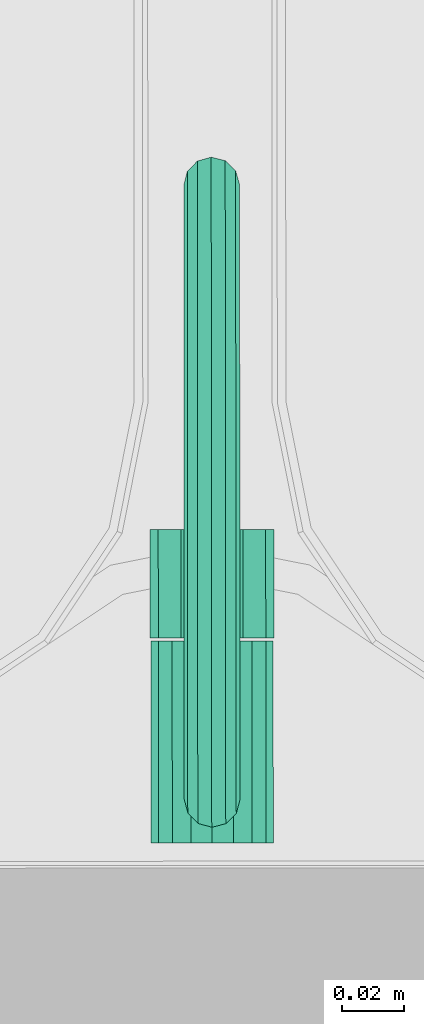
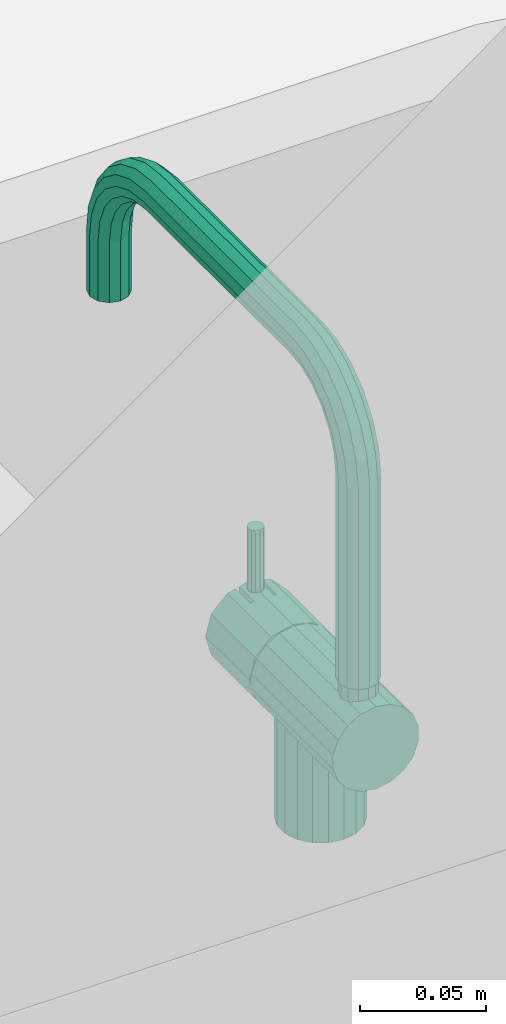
# One storey, part 122 of 194: 1 flow terminal.
"""IFC2X3 building model written with IfcOpenShell, lengths in millimetres."""

import ifcopenshell
import ifcopenshell.guid

model = None  # the IFC model being written
_history = None  # IfcOwnerHistory: only IFC2X3 demands one
_inside = {}  # id of a spatial element -> (the spatial element, [elements in it])
_under = {}  # id of a project, library or spatial element -> (it, [spatial elements below it])
_declared = {}  # id of a project -> (the project, [libraries it declares])
_typed = {}  # id of a type object -> (the type object, [elements of that type])
_made_of = {}  # id of a material, layer set ... -> (it, [elements and type objects made of it])


def new_model(schema):
    """Start an empty IFC model of exactly this schema.

    Asked for "IFC4X3", IfcOpenShell would pick the latest addendum, in which some entities
    have other attributes; the version numbers below select the first issue.
    IFC2X3 requires an IfcOwnerHistory on every rooted entity: one is made here for all.
    """
    global model, _history
    if schema == "IFC4X3":
        model = ifcopenshell.file(schema_version=(4, 3, 0, 0))
    else:
        model = ifcopenshell.file(schema=schema)
    _inside.clear()
    _under.clear()
    _declared.clear()
    _typed.clear()
    _made_of.clear()
    _history = None
    if model.schema == "IFC2X3":
        org = make("IfcOrganization", Name="unknown")
        user = make(
            "IfcPersonAndOrganization",
            ThePerson=make("IfcPerson", FamilyName="unknown"),
            TheOrganization=org,
        )
        app = make(
            "IfcApplication",
            ApplicationDeveloper=org,
            Version="unknown",
            ApplicationFullName="unknown",
            ApplicationIdentifier="unknown",
        )
        _history = make(
            "IfcOwnerHistory",
            OwningUser=user,
            OwningApplication=app,
            ChangeAction="ADDED",
            CreationDate=0,
        )
    return model


def make(cls, **values):
    """One entity of the class cls with the attributes given. An attribute that is None is left unset."""
    return model.create_entity(
        cls, **{name: value for name, value in values.items() if value is not None}
    )


def entity(cls, *values):
    """Any entity or typed value of the class cls, its attributes in the order of the schema. None: left unset."""
    e = model.create_entity(cls)
    for i, value in enumerate(values):
        if value is not None:
            e[i] = value
    return e


def rooted(cls, **values):
    """An entity with a GlobalId (a new one), such as an element, a storey or a relation."""
    return make(cls, GlobalId=ifcopenshell.guid.new(), OwnerHistory=_history, **values)


def si_unit(unit_type, name, prefix=None):
    """IfcSIUnit, for example si_unit("LENGTHUNIT", "METRE", prefix="MILLI")."""
    return make("IfcSIUnit", UnitType=unit_type, Prefix=prefix, Name=name)


def converted_unit(unit_type, name, factor, base, dimensions=None, offset=None):
    """IfcConversionBasedUnit, such as the inch: factor (a typed value) times the base unit."""
    return make(
        "IfcConversionBasedUnit"
        if offset is None
        else "IfcConversionBasedUnitWithOffset",
        ConversionOffset=offset,
        Dimensions=None
        if dimensions is None
        else entity("IfcDimensionalExponents", *dimensions),
        UnitType=unit_type,
        Name=name,
        ConversionFactor=make(
            "IfcMeasureWithUnit", ValueComponent=factor, UnitComponent=base
        ),
    )


def derived_unit(unit_type, elements):
    """IfcDerivedUnit: a product of units, each with its exponent."""
    return make(
        "IfcDerivedUnit",
        Elements=[
            make("IfcDerivedUnitElement", Unit=unit, Exponent=power)
            for unit, power in elements
        ],
        UnitType=unit_type,
    )


def money_unit(currency):
    """IfcMonetaryUnit."""
    return make("IfcMonetaryUnit", Currency=currency)


def assignment(units):
    """IfcUnitAssignment: the units of a project."""
    return None if units is None else make("IfcUnitAssignment", Units=units)


def point(xyz):
    """IfcCartesianPoint."""
    return None if xyz is None else make("IfcCartesianPoint", Coordinates=xyz)


def direction(xyz):
    """IfcDirection."""
    return None if xyz is None else make("IfcDirection", DirectionRatios=xyz)


def frame(location, z_axis=None, x_axis=None):
    """IfcAxis2Placement3D, a coordinate frame: its origin and axes. An axis left out is left unset."""
    return make(
        "IfcAxis2Placement3D",
        Location=point(location),
        Axis=direction(z_axis),
        RefDirection=direction(x_axis),
    )


def origin_with_axes():
    """The frame at (0, 0, 0) with the z axis (0, 0, 1) and the x axis (1, 0, 0) written out."""
    return frame((0.0, 0.0, 0.0), z_axis=(0.0, 0.0, 1.0), x_axis=(1.0, 0.0, 0.0))


def place(relative_to, where):
    """IfcLocalPlacement: puts the frame where relative to a parent placement (None: the world)."""
    return make(
        "IfcLocalPlacement", PlacementRelTo=relative_to, RelativePlacement=where
    )


def context(
    kind, dimensions, precision=None, world=None, true_north=None, identifier=None
):
    """IfcGeometricRepresentationContext, for example the 3D "Model" context."""
    return make(
        "IfcGeometricRepresentationContext",
        ContextIdentifier=identifier,
        ContextType=kind,
        CoordinateSpaceDimension=dimensions,
        Precision=precision,
        WorldCoordinateSystem=world,
        TrueNorth=true_north,
    )


def subcontext(parent, identifier, kind, view, scale=None):
    """IfcGeometricRepresentationSubContext, for example "Body" below "Model"."""
    return make(
        "IfcGeometricRepresentationSubContext",
        ContextIdentifier=identifier,
        ContextType=kind,
        ParentContext=parent,
        TargetScale=scale,
        TargetView=view,
    )


def project(units=None, contexts=None):
    """IfcProject with its units and contexts."""
    return rooted(
        "IfcProject",
        Name="project",
        RepresentationContexts=contexts,
        UnitsInContext=assignment(units),
    )


def spatial(cls, under=None, at=None, **own):
    """A site, building, storey or space (cls), placed at a placement, below another one or the project."""
    s = rooted(cls, ObjectPlacement=at, **own)
    if under is not None:
        _under.setdefault(under.id(), (under, []))[1].append(s)
    return s


def faces_of(points, faces, orient=None, outer=None):
    """IfcFace entities. A face is a list of loops; a loop is a list of indices into points, from 0.

    orient and outer hold one flag for each loop. By default every Orientation is true, the
    first loop of a face is its IfcFaceOuterBound and the others are IfcFaceBound.
    """
    made = []
    for i, loops in enumerate(faces):
        bounds = []
        for j, loop in enumerate(loops):
            is_outer = j == 0 if outer is None else outer[i][j]
            bounds.append(
                make(
                    "IfcFaceOuterBound" if is_outer else "IfcFaceBound",
                    Bound=make("IfcPolyLoop", Polygon=[points[k] for k in loop]),
                    Orientation=True if orient is None else orient[i][j],
                )
            )
        made.append(make("IfcFace", Bounds=bounds))
    return made


def open_shell(faces, orient=None, outer=None):
    """The faces of one IfcOpenShell. surface_model builds it on its shared points."""
    return ("IfcOpenShell", faces, orient, outer)


def faceted_brep(points, faces, orient=None, outer=None, voids=None):
    """IfcFacetedBrep: a solid bounded by flat faces; with voids (closed shells), ...WithVoids."""
    shared = [point(p) for p in points]
    hull = make("IfcClosedShell", CfsFaces=faces_of(shared, faces, orient, outer))
    if voids is None:
        return make("IfcFacetedBrep", Outer=hull)
    return make(
        "IfcFacetedBrepWithVoids",
        Outer=hull,
        Voids=[
            make(cls, CfsFaces=faces_of(shared, fs, o, b)) for cls, fs, o, b in voids
        ],
    )


def surface_model(cls, points, shells):
    """IfcFaceBasedSurfaceModel or IfcShellBasedSurfaceModel (cls): surfaces that need not close."""
    shared = [point(p) for p in points]
    made = [make(c, CfsFaces=faces_of(shared, fs, o, b)) for c, fs, o, b in shells]
    if cls == "IfcFaceBasedSurfaceModel":
        return make(cls, FbsmFaces=made)
    return make(cls, SbsmBoundary=made)


def shape(context_of_items, identifier, shape_type, items):
    """IfcShapeRepresentation: the items that make up one representation, for example the "Body"."""
    return make(
        "IfcShapeRepresentation",
        ContextOfItems=context_of_items,
        RepresentationIdentifier=identifier,
        RepresentationType=shape_type,
        Items=items,
    )


def source(mapping_origin, context_of_items, identifier, shape_type, items):
    """IfcRepresentationMap: a shape defined once, which mapped items show again and again."""
    return make(
        "IfcRepresentationMap",
        MappingOrigin=mapping_origin,
        MappedRepresentation=shape(context_of_items, identifier, shape_type, items),
    )


def transform(
    local_origin,
    x_axis=None,
    y_axis=None,
    z_axis=None,
    scale=None,
    scale2=None,
    scale3=None,
    uniform=True,
):
    """IfcCartesianTransformationOperator3D, or its non-uniform kind. x_axis, y_axis, z_axis: its Axis1, 2, 3."""
    if uniform:
        return make(
            "IfcCartesianTransformationOperator3D",
            Axis1=direction(x_axis),
            Axis2=direction(y_axis),
            LocalOrigin=point(local_origin),
            Scale=scale,
            Axis3=direction(z_axis),
        )
    return make(
        "IfcCartesianTransformationOperator3DnonUniform",
        Axis1=direction(x_axis),
        Axis2=direction(y_axis),
        LocalOrigin=point(local_origin),
        Scale=scale,
        Axis3=direction(z_axis),
        Scale2=scale2,
        Scale3=scale3,
    )


def mapped(mapping_source, mapping_target):
    """IfcMappedItem: shows the shape of a source again, moved by a transform."""
    return make(
        "IfcMappedItem", MappingSource=mapping_source, MappingTarget=mapping_target
    )


def made_of(thing, what):
    """Note that an element or type object is made of a material, layer set ...; save() writes the relation."""
    if what is not None:
        _made_of.setdefault(what.id(), (what, []))[1].append(thing)
    return thing


def type_object(cls, material=None, **own):
    """A type object (cls), such as IfcWallType, which elements share."""
    return made_of(rooted(cls, **own), material)


def element(
    cls,
    number,
    at=None,
    inside=None,
    cuts=None,
    type_object=None,
    material=None,
    context=None,
    identifier="Body",
    shape_type=None,
    held_by="IfcProductDefinitionShape",
    body=None,
    shapes=None,
    **own,
):
    """One element of the class cls, such as IfcWall. Its Tag is "e" and its number.

    at: its placement. inside: the storey or other place that contains it. cuts: it is an
    opening in that element (IfcRelVoidsElement). A single representation is given by context,
    identifier, shape_type and body (its items); several are given by shapes. held_by: the class
    of the entity that holds the representations. save() writes the other relations.
    """
    e = rooted(cls, Tag="e%d" % number, ObjectPlacement=at, **own)
    if body is not None:
        shapes = [shape(context, identifier, shape_type, body)]
    if shapes is not None:
        e.Representation = make(held_by, Representations=shapes)
    if inside is not None:
        _inside.setdefault(inside.id(), (inside, []))[1].append(e)
    if cuts is not None:
        rooted(
            "IfcRelVoidsElement", RelatingBuildingElement=cuts, RelatedOpeningElement=e
        )
    if type_object is not None:
        _typed.setdefault(type_object.id(), (type_object, []))[1].append(e)
    return made_of(e, material)


def aggregate(whole, parts):
    """IfcRelAggregates: a whole, such as a stair, and the parts it consists of."""
    return rooted("IfcRelAggregates", RelatingObject=whole, RelatedObjects=parts)


def save(model, path):
    """Write the relations noted so far, then the file.

    IfcRelAggregates (storeys below a building ...), IfcRelContainedInSpatialStructure (elements
    in a storey), IfcRelDefinesByType, IfcRelAssociatesMaterial and IfcRelDeclares: one each for
    every whole, place, type object, material and project.
    """
    for whole, parts in _under.values():
        aggregate(whole, parts)
    for where, things in _inside.values():
        rooted(
            "IfcRelContainedInSpatialStructure",
            RelatedElements=things,
            RelatingStructure=where,
        )
    for kind, things in _typed.values():
        rooted("IfcRelDefinesByType", RelatedObjects=things, RelatingType=kind)
    for what, things in _made_of.values():
        rooted("IfcRelAssociatesMaterial", RelatedObjects=things, RelatingMaterial=what)
    for by, libraries in _declared.values():
        rooted("IfcRelDeclares", RelatingContext=by, RelatedDefinitions=libraries)
    model.write(path)


model = new_model("IFC2X3")

# Units and contexts
model_context = context("Model", 3, precision=1e-05, world=origin_with_axes(), true_north=direction((0.0, 1.0)))
body_context = subcontext(model_context, "Body", "Model", "MODEL_VIEW")
ifc_project = project(units=[si_unit("LENGTHUNIT", "METRE", prefix="MILLI"), si_unit("AREAUNIT", "SQUARE_METRE"), si_unit("VOLUMEUNIT", "CUBIC_METRE"), converted_unit("PLANEANGLEUNIT", "DEGREE", entity("IfcPlaneAngleMeasure", 0.0174532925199), si_unit("PLANEANGLEUNIT", "RADIAN"), dimensions=[0, 0, 0, 0, 0, 0, 0]), si_unit("SOLIDANGLEUNIT", "STERADIAN"), money_unit("EUR"), converted_unit("TIMEUNIT", "Year", entity("IfcTimeMeasure", 31556926.0), si_unit("TIMEUNIT", "SECOND"), dimensions=[0, 0, 1, 0, 0, 0, 0]), si_unit("MASSUNIT", "GRAM", prefix="KILO"), si_unit("THERMODYNAMICTEMPERATUREUNIT", "DEGREE_CELSIUS"), si_unit("LUMINOUSINTENSITYUNIT", "LUMEN"), si_unit("ENERGYUNIT", "JOULE", prefix="MEGA"), derived_unit("THERMALCONDUCTANCEUNIT", [(si_unit("POWERUNIT", "WATT"), 1), (si_unit("LENGTHUNIT", "METRE"), -1), (si_unit("THERMODYNAMICTEMPERATUREUNIT", "KELVIN"), -1)]), derived_unit("SPECIFICHEATCAPACITYUNIT", [(si_unit("ENERGYUNIT", "JOULE"), 1), (si_unit("MASSUNIT", "GRAM", prefix="KILO"), -1), (si_unit("THERMODYNAMICTEMPERATUREUNIT", "KELVIN"), -1)]), derived_unit("MASSDENSITYUNIT", [(si_unit("MASSUNIT", "GRAM", prefix="KILO"), 1), (si_unit("VOLUMEUNIT", "CUBIC_METRE"), -1)])], contexts=[model_context])

# Site, building, storey
site_placement = place(None, origin_with_axes())
site = spatial("IfcSite", under=ifc_project, at=site_placement, Name="Site", CompositionType="ELEMENT")
building_placement = place(site_placement, origin_with_axes())
building = spatial("IfcBuilding", under=site, at=building_placement, Name="Building", CompositionType="ELEMENT")
storey_placement = place(building_placement, frame((0.0, 0.0, 3000.0), z_axis=(0.0, 0.0, 1.0), x_axis=(1.0, 0.0, 0.0)))
storey = spatial("IfcBuildingStorey", under=building, at=storey_placement, Name="2 KORRUS", CompositionType="ELEMENT", Elevation=3000.0)

# Flow terminal
sanitary_terminal_type = type_object("IfcSanitaryTerminalType", Name="Tap 22", PredefinedType="NOTDEFINED")
shared_shape = source(origin_with_axes(), body_context, "Body", "SurfaceModel", [
    surface_model("IfcShellBasedSurfaceModel", [(-6.32737265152, 17.3843134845, 1041.02727338), (0.0, 18.5, 1040.0), (0.0, 18.5, 1000.0), (-6.32737265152, 17.3843134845, 1000.0), (6.32737265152, 17.3843134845, 1041.02727338), (6.32737265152, 17.3843134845, 1000.0), (11.8915707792, 14.1718221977, 1000.0), (16.02146997, 9.25, 1000.0), (18.2189434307, 3.21249128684, 1000.0), (18.2189434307, -3.21249128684, 1000.0), (16.02146997, -9.25, 1000.0), (11.8915707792, -14.1718221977, 1000.0), (6.32737265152, -17.3843134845, 1000.0), (0.0, -18.5, 1000.0), (-6.32737265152, -17.3843134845, 1000.0), (-11.8915707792, -14.1718221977, 1000.0), (-16.02146997, -9.25, 1000.0), (-18.2189434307, -3.21249128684, 1000.0), (-18.2189434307, 3.21249128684, 1000.0), (-16.02146997, 9.25, 1000.0), (-11.8915707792, 14.1718221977, 1000.0), (-11.8915707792, 14.1718221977, 1043.91924926), (11.8915707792, 14.1718221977, 1043.91924926), (16.02146997, 9.25, 1048.02868011), (18.2189434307, 3.21249128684, 1051.74953939), (18.2189434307, -3.21249128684, 1051.74953939), (16.02146997, -9.25, 1048.02868011), (11.8915707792, -14.1718221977, 1043.91924926), (6.32737265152, -17.3843134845, 1041.02727338), (0.0, -18.5, 1040.0), (-6.32737265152, -17.3843134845, 1041.02727338), (-11.8915707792, -14.1718221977, 1043.91924926), (-16.02146997, -9.25, 1048.02868011), (-18.2189434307, -3.21249128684, 1051.74953939), (-18.2189434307, 3.21249128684, 1051.74953939), (-16.02146997, 9.25, 1048.02868011)], [open_shell([[[0, 1, 2, 3]], [[1, 4, 5, 2]], [[3, 2, 5, 6, 7, 8, 9, 10, 11, 12, 13, 14, 15, 16, 17, 18, 19, 20]], [[21, 0, 3, 20]], [[4, 22, 6, 5]], [[22, 23, 7, 6]], [[23, 24, 8, 7]], [[24, 25, 9, 8]], [[25, 26, 10, 9]], [[26, 27, 11, 10]], [[27, 28, 12, 11]], [[28, 29, 13, 12]], [[29, 30, 14, 13]], [[30, 31, 15, 14]], [[31, 32, 16, 15]], [[32, 33, 17, 16]], [[33, 34, 18, 17]], [[34, 35, 19, 18]], [[35, 21, 20, 19]]])]),
    faceted_brep([(-6.84040286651, 44.0, 1041.20614758), (-12.8557521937, 44.0, 1044.67911114), (-17.3205080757, 44.0, 1050.0), (-19.6961550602, 44.0, 1056.52703645), (-19.6961550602, 44.0, 1063.47296355), (-17.3205080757, 44.0, 1070.0), (-12.8557521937, 44.0, 1075.32088886), (-6.84040286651, 44.0, 1078.79385242), (0.0, 44.0, 1080.0), (6.84040286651, 44.0, 1078.79385242), (12.8557521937, 44.0, 1075.32088886), (17.3205080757, 44.0, 1070.0), (19.6961550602, 44.0, 1063.47296355), (19.6961550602, 44.0, 1056.52703645), (17.3205080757, 44.0, 1050.0), (12.8557521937, 44.0, 1044.67911114), (6.84040286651, 44.0, 1041.20614758), (0.0, 44.0, 1040.0), (-6.84040286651, -21.0, 1041.20614758), (-12.8557521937, -21.0, 1044.67911114), (-17.3205080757, -21.0, 1050.0), (-19.6961550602, -21.0, 1056.52703645), (-19.6961550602, -21.0, 1063.47296355), (-17.3205080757, -21.0, 1070.0), (-12.8557521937, -21.0, 1075.32088886), (-6.84040286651, -21.0, 1078.79385242), (0.0, -21.0, 1080.0), (6.84040286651, -21.0, 1078.79385242), (12.8557521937, -21.0, 1075.32088886), (17.3205080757, -21.0, 1070.0), (19.6961550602, -21.0, 1063.47296355), (19.6961550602, -21.0, 1056.52703645), (17.3205080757, -21.0, 1050.0), (12.8557521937, -21.0, 1044.67911114), (6.84040286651, -21.0, 1041.20614758), (0.0, -21.0, 1040.0)], [[[0, 1, 2, 3, 4, 5, 6, 7, 8, 9, 10, 11, 12, 13, 14, 15, 16, 17]], [[1, 0, 18, 19]], [[2, 1, 19, 20]], [[3, 2, 20, 21]], [[4, 3, 21, 22]], [[5, 4, 22, 23]], [[6, 5, 23, 24]], [[7, 6, 24, 25]], [[8, 7, 25, 26]], [[9, 8, 26, 27]], [[10, 9, 27, 28]], [[11, 10, 28, 29]], [[12, 11, 29, 30]], [[13, 12, 30, 31]], [[14, 13, 31, 32]], [[15, 14, 32, 33]], [[16, 15, 33, 34]], [[17, 16, 34, 35]], [[0, 17, 35, 18]], [[18, 35, 34, 33, 32, 31, 30, 29, 28, 27, 26, 25, 24, 23, 22, 21, 20, 19]]]),
    faceted_brep([(4.5, -57.0, 1078.79422863), (4.5, -45.0, 1078.79422863), (6.0, -45.0, 1078.39230485), (6.0, -57.0, 1078.39230485), (10.0, -57.0, 1077.32050808), (10.0, -22.0, 1077.32050808), (0.0, -22.0, 1080.0), (0.0, -57.0, 1080.0), (4.5, -57.0, 1041.20577137), (4.5, -45.0, 1041.20577137), (6.0, -45.0, 1041.60769515), (6.0, -57.0, 1041.60769515), (10.0, -57.0, 1042.67949192), (17.3205080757, -57.0, 1050.0), (20.0, -57.0, 1060.0), (17.3205080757, -57.0, 1070.0), (17.3205080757, -22.0, 1070.0), (20.0, -22.0, 1060.0), (17.3205080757, -22.0, 1050.0), (10.0, -22.0, 1042.67949192), (0.0, -22.0, 1040.0), (-10.0, -22.0, 1042.67949192), (-17.3205080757, -22.0, 1050.0), (-20.0, -22.0, 1060.0), (-17.3205080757, -22.0, 1070.0), (-10.0, -22.0, 1077.32050808), (-10.0, -57.0, 1077.32050808), (-6.0, -57.0, 1078.39230485), (-6.0, -45.0, 1078.39230485), (-4.5, -45.0, 1078.79422863), (-4.5, -57.0, 1078.79422863), (-4.5, -57.0, 1041.20577137), (0.0, -57.0, 1040.0), (-4.5, -45.0, 1041.20577137), (-6.0, -45.0, 1041.60769515), (-6.0, -57.0, 1041.60769515), (-10.0, -57.0, 1042.67949192), (-17.3205080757, -57.0, 1050.0), (-20.0, -57.0, 1060.0), (-17.3205080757, -57.0, 1070.0)], [[[0, 1, 2, 3, 4, 5, 6, 7]], [[1, 0, 8, 9]], [[2, 1, 9, 10]], [[3, 2, 10, 11]], [[3, 11, 12, 13, 14, 15, 4]], [[4, 15, 16, 5]], [[5, 16, 17, 18, 19, 20, 21, 22, 23, 24, 25, 6]], [[6, 25, 26, 27, 28, 29, 30, 7]], [[8, 0, 7, 30, 31, 32]], [[9, 8, 32, 20, 19, 12, 11, 10]], [[13, 12, 19, 18]], [[14, 13, 18, 17]], [[15, 14, 17, 16]], [[32, 31, 33, 34, 35, 36, 21, 20]], [[36, 37, 22, 21]], [[37, 38, 23, 22]], [[38, 39, 24, 23]], [[39, 26, 25, 24]], [[38, 37, 36, 35, 27, 26, 39]], [[27, 35, 34, 28]], [[28, 34, 33, 29]], [[29, 33, 31, 30]]]),
    surface_model("IfcShellBasedSurfaceModel", [(1.75, -48.4689110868, 1079.92329039), (0.0, -48.0, 1080.0), (0.0, -48.0, 1110.0), (1.75, -48.4689110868, 1110.0), (-1.75, -48.4689110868, 1079.92329039), (-1.75, -48.4689110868, 1110.0), (-3.03108891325, -49.75, 1110.0), (-3.5, -51.5, 1110.0), (-3.03108891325, -53.25, 1110.0), (-1.75, -54.5310889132, 1110.0), (0.0, -55.0, 1110.0), (1.75, -54.5310889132, 1110.0), (3.03108891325, -53.25, 1110.0), (3.5, -51.5, 1110.0), (3.03108891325, -49.75, 1110.0), (3.03108891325, -49.75, 1079.76897822), (-3.03108891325, -49.75, 1079.76897822), (-3.5, -51.5, 1079.69136867), (-3.03108891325, -53.25, 1079.76897822), (-1.75, -54.5310889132, 1079.92329039), (0.0, -55.0, 1080.0), (1.75, -54.5310889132, 1079.92329039), (3.03108891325, -53.25, 1079.76897822), (3.5, -51.5, 1079.69136867)], [open_shell([[[0, 1, 2, 3]], [[1, 4, 5, 2]], [[3, 2, 5, 6, 7, 8, 9, 10, 11, 12, 13, 14]], [[15, 0, 3, 14]], [[4, 16, 6, 5]], [[16, 17, 7, 6]], [[17, 18, 8, 7]], [[18, 19, 9, 8]], [[19, 20, 10, 9]], [[20, 21, 11, 10]], [[21, 22, 12, 11]], [[22, 23, 13, 12]], [[23, 15, 14, 13]]])]),
    surface_model("IfcShellBasedSurfaceModel", [(4.0, 36.9282032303, 1079.59591794), (0.0, 38.0, 1080.0), (0.0, 38.0, 1090.0), (4.0, 36.9282032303, 1090.0), (-4.0, 36.9282032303, 1079.59591794), (-4.0, 36.9282032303, 1090.0), (-6.92820323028, 34.0, 1090.0), (-8.0, 30.0, 1090.0), (-6.92820323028, 26.0, 1090.0), (-4.0, 23.0717967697, 1090.0), (0.0, 22.0, 1090.0), (4.0, 23.0717967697, 1090.0), (6.92820323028, 26.0, 1090.0), (8.0, 30.0, 1090.0), (6.92820323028, 34.0, 1090.0), (6.92820323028, 34.0, 1078.76166304), (-6.92820323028, 34.0, 1078.76166304), (-8.0, 30.0, 1078.33030278), (-6.92820323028, 26.0, 1078.76166304), (-4.0, 23.0717967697, 1079.59591794), (0.0, 22.0, 1080.0), (4.0, 23.0717967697, 1079.59591794), (6.92820323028, 26.0, 1078.76166304), (8.0, 30.0, 1078.33030278)], [open_shell([[[0, 1, 2, 3]], [[1, 4, 5, 2]], [[3, 2, 5, 6, 7, 8, 9, 10, 11, 12, 13, 14]], [[15, 0, 3, 14]], [[4, 16, 6, 5]], [[16, 17, 7, 6]], [[17, 18, 8, 7]], [[18, 19, 9, 8]], [[19, 20, 10, 9]], [[20, 21, 11, 10]], [[21, 22, 12, 11]], [[22, 23, 13, 12]], [[23, 15, 14, 13]]])]),
    surface_model("IfcShellBasedSurfaceModel", [(-9.0, 30.0, 1086.0), (-7.79422863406, 25.5, 1086.0), (-7.79422863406, 25.5, 1183.70505442), (-9.0, 30.0, 1184.0), (-4.5, 22.2057713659, 1086.0), (-4.5, 22.2057713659, 1183.48913927), (-7.87157736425, 24.317905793, 1193.73135353), (-7.79422863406, 34.5, 1086.0), (-7.79422863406, 34.5, 1184.29494558), (0.0, 21.0, 1086.0), (0.0, 21.0, 1183.41010883), (-4.63534267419, 21.052944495, 1192.85650978), (-8.99862925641, 28.7219134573, 1194.91140383), (-4.5, 37.7942286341, 1086.0), (-4.5, 37.7942286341, 1184.51086073), (4.5, 22.2057713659, 1086.0), (4.5, 22.2057713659, 1183.48913927), (-0.157071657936, 19.8018733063, 1192.52128627), (-4.63534267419, 17.6344593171, 1201.10946306), (-7.87157736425, 20.5617435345, 1202.79953139), (-8.99862925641, 24.5102687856, 1205.07921351), (-7.71450570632, 33.0849171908, 1196.08046715), (0.0, 39.0, 1086.0), (0.0, 39.0, 1184.58989117), (7.79422863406, 25.5, 1086.0), (7.79422863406, 25.5, 1183.70505442), (4.36328658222, 20.8999157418, 1192.81550585), (-0.157071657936, 16.5127795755, 1200.46186096), (-4.63534267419, 12.1964347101, 1208.19643471), (-7.87157736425, 14.586552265, 1210.58655226), (-8.99862925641, 17.8105096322, 1213.81050963), (-7.71450570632, 28.422030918, 1207.33767043), (-4.36328658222, 36.2378536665, 1196.92529393), (4.5, 37.7942286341, 1086.0), (4.5, 37.7942286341, 1184.51086073), (9.0, 30.0, 1086.0), (9.0, 30.0, 1184.0), (7.71450570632, 24.0528522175, 1193.66033264), (4.36328658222, 17.4972574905, 1201.03024955), (-0.157071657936, 11.2805870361, 1207.28058704), (-4.63534267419, 5.10946306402, 1213.63445932), (-7.87157736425, 6.79953139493, 1216.56174353), (-8.99862925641, 9.07921351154, 1220.51026879), (-7.71450570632, 21.0044500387, 1217.00445004), (-4.36328658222, 31.2488764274, 1208.96975045), (0.157071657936, 37.335896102, 1197.21951352), (7.79422863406, 34.5, 1086.0), (7.79422863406, 34.5, 1184.29494558), (8.99862925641, 28.415855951, 1194.82939596), (7.71450570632, 20.3241029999, 1202.66232957), (4.36328658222, 12.0844098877, 1208.08440989), (-0.157071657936, 4.46186096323, 1212.51277958), (-4.63534267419, -3.14349021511, 1217.05294449), (-7.87157736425, -2.26864647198, 1220.31790579), (-8.99862925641, -1.08859617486, 1224.72191346), (-7.71450570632, 11.3376704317, 1224.42203092), (-4.36328658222, 23.312559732, 1219.31255973), (0.157071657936, 32.2333543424, 1209.53813904), (4.63534267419, 36.0848249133, 1196.88429), (7.87157736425, 32.8198636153, 1196.00944626), (8.99862925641, 24.2358651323, 1204.92078649), (7.71450570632, 14.392519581, 1210.39251958), (4.36328658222, 5.03024955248, 1213.49725749), (-0.157071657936, -3.47871372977, 1215.80187331), (-4.63534267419, -12.5056354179, 1218.28549429), (-7.87157736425, -12.2859849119, 1221.63671342), (-8.99862925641, -11.9897049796, 1226.15707166), (-7.71450570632, 0.0804671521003, 1229.08491719), (-4.36328658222, 12.9697504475, 1227.24887643), (0.157071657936, 24.1163825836, 1220.11638258), (4.63534267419, 31.1116746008, 1208.89053694), (7.87157736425, 28.1843903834, 1207.20046861), (8.99862925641, 17.5864599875, 1213.58645999), (7.71450570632, 6.6623295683, 1216.324103), (4.36328658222, -3.18449414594, 1216.89991574), (-0.157071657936, -12.5898013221, 1217.00137074), (-4.63534267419, -125.494364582, 1218.28549429), (-7.87157736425, -125.714015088, 1221.63671342), (-8.99862925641, -126.01029502, 1226.15707166), (-7.71450570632, -11.6961835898, 1230.63534267), (-4.36328658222, 0.925293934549, 1232.23785367), (0.157071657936, 13.5381390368, 1228.23335434), (4.63534267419, 23.2005349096, 1219.20053491), (7.87157736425, 20.8104173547, 1216.81041735), (8.99862925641, 8.92078648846, 1220.23586513), (7.71450570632, -2.33966736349, 1220.05285222), (4.36328658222, -12.5159304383, 1218.12842264), (-0.157071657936, -125.410198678, 1217.00137074), (-4.63534267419, -134.856509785, 1217.05294449), (-7.87157736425, -135.731353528, 1220.31790579), (-8.99862925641, -136.911403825, 1224.72191346), (-7.71450570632, -126.30381641, 1230.63534267), (-4.36328658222, -11.4840695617, 1233.87157736), (0.157071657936, 1.21951351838, 1233.3358961), (4.63534267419, 12.890536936, 1227.1116746), (7.87157736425, 11.2004686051, 1224.18439038), (8.99862925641, -1.17060403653, 1224.41585595), (7.71450570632, -12.3038164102, 1221.36465733), (4.36328658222, -125.484069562, 1218.12842264), (-0.157071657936, -134.52128627, 1215.80187331), (-4.63534267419, -143.109463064, 1213.63445932), (-7.87157736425, -144.799531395, 1216.56174353), (-8.99862925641, -147.079213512, 1220.51026879), (-7.71450570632, -138.080467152, 1229.08491719), (-4.36328658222, -126.515930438, 1233.87157736), (0.157071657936, -11.4101986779, 1234.99862926), (4.63534267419, 0.884290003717, 1232.08482491), (7.87157736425, 0.00944626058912, 1228.81986362), (8.99862925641, -12.0102950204, 1225.84292834), (7.71450570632, -125.69618359, 1221.36465733), (4.36328658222, -134.815505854, 1216.89991574), (-0.157071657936, -142.461860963, 1212.51277958), (-4.63534267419, -150.19643471, 1208.19643471), (-7.87157736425, -152.586552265, 1210.58655226), (-8.99862925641, -155.810509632, 1213.81050963), (-7.71450570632, -149.337670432, 1224.42203092), (-4.36328658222, -138.925293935, 1232.23785367), (0.157071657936, -126.589801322, 1234.99862926), (4.63534267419, -11.4943645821, 1233.71450571), (7.87157736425, -11.7140150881, 1230.36328658), (8.99862925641, -125.98970498, 1225.84292834), (7.71450570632, -135.660332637, 1220.05285222), (4.36328658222, -143.030249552, 1213.49725749), (-0.157071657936, -149.280587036, 1207.28058704), (-4.63534267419, -155.634459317, 1201.10946306), (-7.87157736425, -158.561743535, 1202.79953139), (-8.99862925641, -162.510268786, 1205.07921351), (-7.71450570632, -159.004450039, 1217.00445004), (-4.36328658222, -150.969750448, 1227.24887643), (0.157071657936, -139.219513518, 1233.3358961), (4.63534267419, -126.505635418, 1233.71450571), (7.87157736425, -126.285984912, 1230.36328658), (8.99862925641, -136.829395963, 1224.41585595), (7.71450570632, -144.662329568, 1216.324103), (4.36328658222, -150.084409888, 1208.08440989), (-0.157071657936, -154.512779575, 1200.46186096), (-4.63534267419, -159.052944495, 1192.85650978), (-7.87157736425, -162.317905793, 1193.73135353), (-8.99862925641, -166.721913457, 1194.91140383), (-7.71450570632, -166.422030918, 1207.33767043), (-4.36328658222, -161.312559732, 1219.31255973), (0.157071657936, -151.538139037, 1228.23335434), (4.63534267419, -138.884290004, 1232.08482491), (7.87157736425, -138.009446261, 1228.81986362), (8.99862925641, -146.920786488, 1220.23586513), (7.71450570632, -152.392519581, 1210.39251958), (4.36328658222, -155.49725749, 1201.03024955), (-0.157071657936, -157.801873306, 1192.52128627), (-4.63534267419, -160.285494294, 1183.49436458), (-7.87157736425, -163.636713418, 1183.71401509), (-8.99862925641, -168.157071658, 1184.01029502), (-7.71450570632, -171.084917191, 1196.08046715), (-4.36328658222, -169.248876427, 1208.96975045), (0.157071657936, -162.116382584, 1220.11638258), (4.63534267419, -150.890536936, 1227.1116746), (7.87157736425, -149.200468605, 1224.18439038), (8.99862925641, -155.586459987, 1213.58645999), (7.71450570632, -158.324103, 1202.66232957), (4.36328658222, -158.899915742, 1192.81550585), (-0.157071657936, -159.001370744, 1183.41019868), (-4.63534267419, -160.285494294, 1154.0), (-7.87157736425, -163.636713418, 1154.0), (-8.99862925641, -168.157071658, 1154.0), (-7.71450570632, -172.635342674, 1184.30381641), (-4.36328658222, -174.237853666, 1196.92529393), (0.157071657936, -170.233354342, 1209.53813904), (4.63534267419, -161.20053491, 1219.20053491), (7.87157736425, -158.810417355, 1216.81041735), (8.99862925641, -162.235865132, 1204.92078649), (7.71450570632, -162.052852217, 1193.66033264), (4.36328658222, -160.128422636, 1183.48406956), (-0.157071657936, -159.001370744, 1154.0), (-7.71450570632, -172.635342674, 1154.0), (-4.36328658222, -175.871577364, 1184.51593044), (0.157071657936, -175.335896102, 1197.21951352), (4.63534267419, -169.111674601, 1208.89053694), (7.87157736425, -166.184390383, 1207.20046861), (8.99862925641, -166.415855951, 1194.82939596), (7.71450570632, -163.364657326, 1183.69618359), (4.36328658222, -160.128422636, 1154.0), (-4.36328658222, -175.871577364, 1154.0), (0.157071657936, -176.998629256, 1184.58980132), (4.63534267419, -174.084824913, 1196.88429), (7.87157736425, -170.819863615, 1196.00944626), (8.99862925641, -167.842928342, 1183.98970498), (7.71450570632, -163.364657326, 1154.0), (0.157071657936, -176.998629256, 1154.0), (4.63534267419, -175.714505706, 1184.50563542), (7.87157736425, -172.363286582, 1184.28598491), (8.99862925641, -167.842928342, 1154.0), (4.63534267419, -175.714505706, 1154.0), (7.87157736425, -172.363286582, 1154.0)], [open_shell([[[0, 1, 2, 3]], [[1, 4, 5, 2]], [[3, 2, 6]], [[7, 0, 3, 8]], [[4, 9, 10, 5]], [[2, 5, 11]], [[2, 11, 6]], [[3, 6, 12]], [[8, 3, 12]], [[13, 7, 8, 14]], [[9, 15, 16, 10]], [[5, 10, 17]], [[5, 17, 11]], [[6, 11, 18, 19]], [[12, 6, 19, 20]], [[8, 12, 21]], [[14, 8, 21]], [[22, 13, 14, 23]], [[15, 24, 25, 16]], [[10, 16, 26]], [[10, 26, 17]], [[11, 17, 27, 18]], [[19, 18, 28, 29]], [[20, 19, 29, 30]], [[21, 12, 20, 31]], [[14, 21, 32]], [[23, 14, 32]], [[33, 22, 23, 34]], [[24, 35, 36, 25]], [[16, 25, 37]], [[16, 37, 26]], [[17, 26, 38, 27]], [[18, 27, 39, 28]], [[29, 28, 40, 41]], [[30, 29, 41, 42]], [[31, 20, 30, 43]], [[32, 21, 31, 44]], [[23, 32, 45]], [[34, 23, 45]], [[46, 33, 34, 47]], [[35, 46, 47, 36]], [[25, 36, 48]], [[25, 48, 37]], [[26, 37, 49, 38]], [[27, 38, 50, 39]], [[28, 39, 51, 40]], [[41, 40, 52, 53]], [[42, 41, 53, 54]], [[43, 30, 42, 55]], [[44, 31, 43, 56]], [[45, 32, 44, 57]], [[34, 45, 58]], [[47, 34, 58]], [[36, 47, 59]], [[36, 59, 48]], [[37, 48, 60, 49]], [[38, 49, 61, 50]], [[39, 50, 62, 51]], [[40, 51, 63, 52]], [[53, 52, 64, 65]], [[54, 53, 65, 66]], [[55, 42, 54, 67]], [[56, 43, 55, 68]], [[57, 44, 56, 69]], [[58, 45, 57, 70]], [[47, 58, 59]], [[48, 59, 71, 60]], [[49, 60, 72, 61]], [[50, 61, 73, 62]], [[51, 62, 74, 63]], [[52, 63, 75, 64]], [[65, 64, 76, 77]], [[66, 65, 77, 78]], [[67, 54, 66, 79]], [[68, 55, 67, 80]], [[69, 56, 68, 81]], [[70, 57, 69, 82]], [[59, 58, 70, 71]], [[60, 71, 83, 72]], [[61, 72, 84, 73]], [[62, 73, 85, 74]], [[63, 74, 86, 75]], [[64, 75, 87, 76]], [[77, 76, 88, 89]], [[78, 77, 89, 90]], [[79, 66, 78, 91]], [[80, 67, 79, 92]], [[81, 68, 80, 93]], [[82, 69, 81, 94]], [[71, 70, 82, 83]], [[72, 83, 95, 84]], [[73, 84, 96, 85]], [[74, 85, 97, 86]], [[75, 86, 98, 87]], [[76, 87, 99, 88]], [[89, 88, 100, 101]], [[90, 89, 101, 102]], [[91, 78, 90, 103]], [[92, 79, 91, 104]], [[93, 80, 92, 105]], [[94, 81, 93, 106]], [[83, 82, 94, 95]], [[84, 95, 107, 96]], [[85, 96, 108, 97]], [[86, 97, 109, 98]], [[87, 98, 110, 99]], [[88, 99, 111, 100]], [[101, 100, 112, 113]], [[102, 101, 113, 114]], [[103, 90, 102, 115]], [[104, 91, 103, 116]], [[105, 92, 104, 117]], [[106, 93, 105, 118]], [[95, 94, 106, 107]], [[96, 107, 119, 108]], [[97, 108, 120, 109]], [[98, 109, 121, 110]], [[99, 110, 122, 111]], [[100, 111, 123, 112]], [[113, 112, 124, 125]], [[114, 113, 125, 126]], [[115, 102, 114, 127]], [[116, 103, 115, 128]], [[117, 104, 116, 129]], [[118, 105, 117, 130]], [[107, 106, 118, 119]], [[108, 119, 131, 120]], [[109, 120, 132, 121]], [[110, 121, 133, 122]], [[111, 122, 134, 123]], [[112, 123, 135, 124]], [[125, 124, 136, 137]], [[126, 125, 137, 138]], [[127, 114, 126, 139]], [[128, 115, 127, 140]], [[129, 116, 128, 141]], [[130, 117, 129, 142]], [[119, 118, 130, 131]], [[120, 131, 143, 132]], [[121, 132, 144, 133]], [[122, 133, 145, 134]], [[123, 134, 146, 135]], [[124, 135, 147, 136]], [[137, 136, 148, 149]], [[138, 137, 149, 150]], [[139, 126, 138, 151]], [[140, 127, 139, 152]], [[141, 128, 140, 153]], [[142, 129, 141, 154]], [[131, 130, 142, 143]], [[132, 143, 155, 144]], [[133, 144, 156, 145]], [[134, 145, 157, 146]], [[135, 146, 158, 147]], [[136, 147, 159, 148]], [[149, 148, 160, 161]], [[150, 149, 161, 162]], [[151, 138, 150, 163]], [[152, 139, 151, 164]], [[153, 140, 152, 165]], [[154, 141, 153, 166]], [[143, 142, 154, 155]], [[144, 155, 167, 156]], [[145, 156, 168, 157]], [[146, 157, 169, 158]], [[147, 158, 170, 159]], [[148, 159, 171, 160]], [[163, 150, 162, 172]], [[164, 151, 163, 173]], [[165, 152, 164, 174]], [[166, 153, 165, 175]], [[155, 154, 166, 167]], [[156, 167, 176, 168]], [[157, 168, 177, 169]], [[158, 169, 178, 170]], [[159, 170, 179, 171]], [[173, 163, 172, 180]], [[174, 164, 173, 181]], [[175, 165, 174, 182]], [[167, 166, 175, 176]], [[168, 176, 183, 177]], [[169, 177, 184, 178]], [[170, 178, 185, 179]], [[181, 173, 180, 186]], [[182, 174, 181, 187]], [[176, 175, 182, 183]], [[177, 183, 188, 184]], [[178, 184, 189, 185]], [[187, 181, 186, 190]], [[183, 182, 187, 188]], [[184, 188, 191, 189]], [[188, 187, 190, 191]]])]),
])
flow_terminal_placement = place(storey_placement, frame((91221.1828184, 41055.2186589, 372.72007243), z_axis=(0.0, 0.0, 1.0), x_axis=(-0.999999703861, -0.000769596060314, 0.0)))
element("IfcFlowTerminal", 1, at=flow_terminal_placement, inside=storey, type_object=sanitary_terminal_type, Name="Valamu", context=body_context, shape_type="MappedRepresentation", body=[
    mapped(shared_shape, transform((0.0, 0.0, 0.0))),
])

save(model, "model.ifc")
